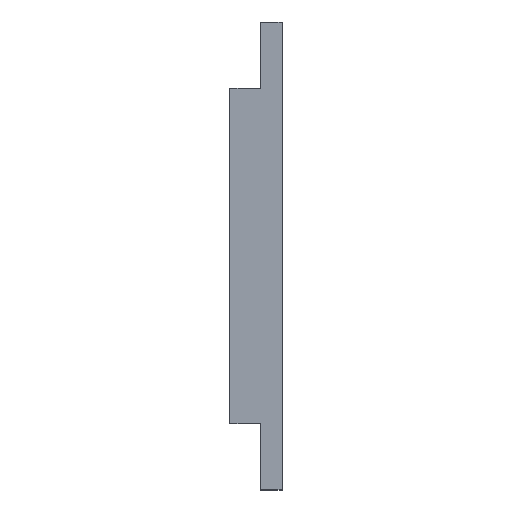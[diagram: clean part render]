
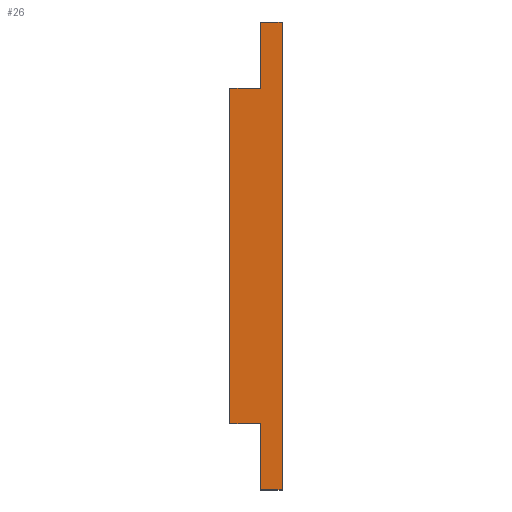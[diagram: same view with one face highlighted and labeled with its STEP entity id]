
A CAD part, left-side view. The second image highlights one B-rep face of the part: STEP entity #26.
In plain terms, the highlighted planar face has unit normal (-1, 0, -0.031).
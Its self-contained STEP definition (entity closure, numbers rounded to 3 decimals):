
#26 = ADVANCED_FACE ( 'NONE', ( #2562 ), #2460, .F. ) ;
#86 = DIRECTION ( 'NONE',  ( -0.031, 0., 1. ) ) ;
#159 = VECTOR ( 'NONE', #2411, 1000. ) ;
#176 = VERTEX_POINT ( 'NONE', #1048 ) ;
#284 = CARTESIAN_POINT ( 'NONE',  ( -151.35, 4., 43. ) ) ;
#334 = DIRECTION ( 'NONE',  ( 0., -1., 0. ) ) ;
#397 = DIRECTION ( 'NONE',  ( 1., 0., 0.031 ) ) ;
#474 = LINE ( 'NONE', #721, #159 ) ;
#501 = EDGE_CURVE ( 'NONE', #176, #1012, #542, .T. ) ;
#542 = LINE ( 'NONE', #726, #2142 ) ;
#567 = ORIENTED_EDGE ( 'NONE', *, *, #2178, .F. ) ;
#572 = VECTOR ( 'NONE', #334, 1000. ) ;
#593 = VERTEX_POINT ( 'NONE', #2239 ) ;
#721 = CARTESIAN_POINT ( 'NONE',  ( -149.033, 9.6, -30.8 ) ) ;
#726 = CARTESIAN_POINT ( 'NONE',  ( -148.65, 4., -43. ) ) ;
#751 = ORIENTED_EDGE ( 'NONE', *, *, #2209, .F. ) ;
#815 = ORIENTED_EDGE ( 'NONE', *, *, #1793, .F. ) ;
#868 = ORIENTED_EDGE ( 'NONE', *, *, #2332, .T. ) ;
#921 = LINE ( 'NONE', #1007, #2018 ) ;
#941 = VERTEX_POINT ( 'NONE', #2298 ) ;
#1007 = CARTESIAN_POINT ( 'NONE',  ( -151.35, 0., 43. ) ) ;
#1012 = VERTEX_POINT ( 'NONE', #1912 ) ;
#1023 = LINE ( 'NONE', #284, #1872 ) ;
#1046 = CARTESIAN_POINT ( 'NONE',  ( -150.967, 9.6, 30.8 ) ) ;
#1048 = CARTESIAN_POINT ( 'NONE',  ( -148.65, 4., -43. ) ) ;
#1049 = LINE ( 'NONE', #1764, #572 ) ;
#1067 = AXIS2_PLACEMENT_3D ( 'NONE', #2438, #397, #2256 ) ;
#1068 = DIRECTION ( 'NONE',  ( -0.031, 0., 1. ) ) ;
#1125 = CARTESIAN_POINT ( 'NONE',  ( -150.967, 4., 30.8 ) ) ;
#1141 = DIRECTION ( 'NONE',  ( 0., -1., 0. ) ) ;
#1175 = LINE ( 'NONE', #2660, #1551 ) ;
#1176 = EDGE_CURVE ( 'NONE', #1012, #1382, #921, .T. ) ;
#1234 = LINE ( 'NONE', #2558, #2403 ) ;
#1308 = CARTESIAN_POINT ( 'NONE',  ( -151.35, 0., 43. ) ) ;
#1382 = VERTEX_POINT ( 'NONE', #1308 ) ;
#1393 = EDGE_CURVE ( 'NONE', #176, #593, #1023, .T. ) ;
#1464 = ORIENTED_EDGE ( 'NONE', *, *, #1512, .F. ) ;
#1512 = EDGE_CURVE ( 'NONE', #941, #1382, #2600, .T. ) ;
#1551 = VECTOR ( 'NONE', #2240, 1000. ) ;
#1712 = VECTOR ( 'NONE', #2024, 1000. ) ;
#1761 = DIRECTION ( 'NONE',  ( 0., -1., 0. ) ) ;
#1764 = CARTESIAN_POINT ( 'NONE',  ( -150.967, 9.6, 30.8 ) ) ;
#1793 = EDGE_CURVE ( 'NONE', #2492, #941, #1175, .T. ) ;
#1838 = ORIENTED_EDGE ( 'NONE', *, *, #501, .T. ) ;
#1863 = EDGE_LOOP ( 'NONE', ( #2281, #1464, #815, #567, #751, #868, #2365, #1838 ) ) ;
#1872 = VECTOR ( 'NONE', #86, 1000. ) ;
#1896 = VERTEX_POINT ( 'NONE', #1046 ) ;
#1912 = CARTESIAN_POINT ( 'NONE',  ( -148.65, 0., -43. ) ) ;
#1929 = CARTESIAN_POINT ( 'NONE',  ( -149.033, 9.6, -30.8 ) ) ;
#2018 = VECTOR ( 'NONE', #1068, 1000. ) ;
#2024 = DIRECTION ( 'NONE',  ( 0., -1., 0. ) ) ;
#2044 = CARTESIAN_POINT ( 'NONE',  ( -151.35, 4., 43. ) ) ;
#2142 = VECTOR ( 'NONE', #1761, 1000. ) ;
#2178 = EDGE_CURVE ( 'NONE', #1896, #2492, #1049, .T. ) ;
#2209 = EDGE_CURVE ( 'NONE', #2470, #1896, #474, .T. ) ;
#2239 = CARTESIAN_POINT ( 'NONE',  ( -149.033, 4., -30.8 ) ) ;
#2240 = DIRECTION ( 'NONE',  ( -0.031, 0., 1. ) ) ;
#2256 = DIRECTION ( 'NONE',  ( 0.031, 0., -1. ) ) ;
#2281 = ORIENTED_EDGE ( 'NONE', *, *, #1176, .T. ) ;
#2298 = CARTESIAN_POINT ( 'NONE',  ( -151.35, 4., 43. ) ) ;
#2332 = EDGE_CURVE ( 'NONE', #2470, #593, #1234, .T. ) ;
#2365 = ORIENTED_EDGE ( 'NONE', *, *, #1393, .F. ) ;
#2403 = VECTOR ( 'NONE', #1141, 1000. ) ;
#2411 = DIRECTION ( 'NONE',  ( -0.031, 0., 1. ) ) ;
#2438 = CARTESIAN_POINT ( 'NONE',  ( -151.35, 4., 43. ) ) ;
#2460 = PLANE ( 'NONE',  #1067 ) ;
#2470 = VERTEX_POINT ( 'NONE', #1929 ) ;
#2492 = VERTEX_POINT ( 'NONE', #1125 ) ;
#2558 = CARTESIAN_POINT ( 'NONE',  ( -149.033, 9.6, -30.8 ) ) ;
#2562 = FACE_OUTER_BOUND ( 'NONE', #1863, .T. ) ;
#2600 = LINE ( 'NONE', #2044, #1712 ) ;
#2660 = CARTESIAN_POINT ( 'NONE',  ( -151.35, 4., 43. ) ) ;
